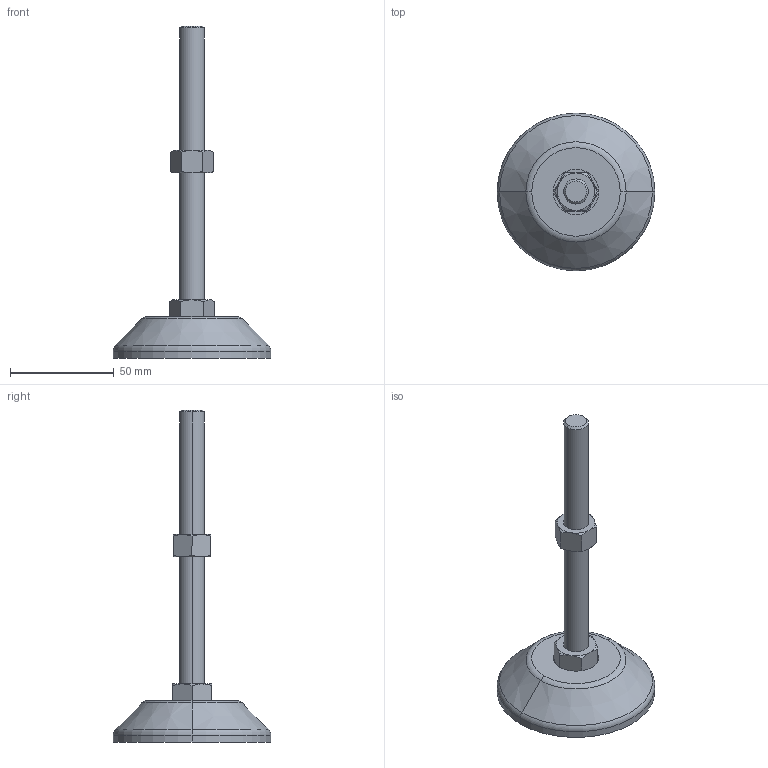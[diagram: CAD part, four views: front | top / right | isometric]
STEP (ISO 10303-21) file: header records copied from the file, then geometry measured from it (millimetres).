
FILE_DESCRIPTION (( 'STEP AP203' ), '1' );
FILE_NAME ('0108SD80M12X160.STEP', '2024-09-06T10:36:07', ( 'Windows-Benutzer' ), ( '' ), 'SwSTEP 2.0', 'SolidWorks 2024', '' );
FILE_SCHEMA (( 'CONFIG_CONTROL_DESIGN' ));
Length unit declared in the file: millimetre
Products named in the file (4): Stellfuß Schwenkbolzen M12x160 für FP D80; Stellfuß Bodenplatte D80 zu M12 Schwenkbolzen; Hexagon Nut ISO 4032 - M12 - D - N-ST8_8-ZN_Hexagon Nut ISO 4032 - M12 - D - N-ST8_8-ZN; 0108SD80M12X160
Assembly tree (3 placements, depth 2):
  0108SD80M12X160
    Stellfuß Bodenplatte D80 zu M12 Schwenkbolzen
    Stellfuß Schwenkbolzen M12x160 für FP D80
    Hexagon Nut ISO 4032 - M12 - D - N-ST8_8-ZN_Hexagon Nut ISO 4032 - M12 - D - N-ST8_8-ZN
Bounding box: 76 x 76 x 160 mm (x, y, z)
Volume: 87279.7 mm3; surface area: 19445.7 mm2
Topology: 3 solids, 3 shells, 70 faces, 149 edges, 86 vertices
Faces by surface type: cone 34, plane 20, cylinder 10, torus 4, sphere 2
Entity records: 2302 total; most frequent: CARTESIAN_POINT 487, DIRECTION 312, ORIENTED_EDGE 288, EDGE_CURVE 144, AXIS2_PLACEMENT_3D 140, VERTEX_POINT 83, EDGE_LOOP 75, FACE_OUTER_BOUND 70
